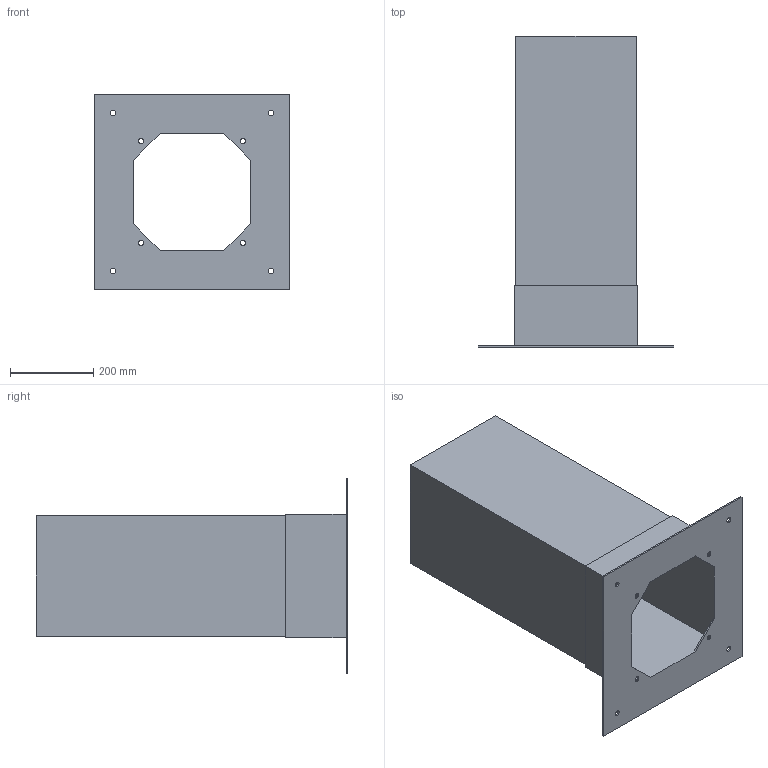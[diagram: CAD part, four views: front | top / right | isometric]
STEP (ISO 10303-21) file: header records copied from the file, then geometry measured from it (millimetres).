
FILE_DESCRIPTION(('STEP AP214'),'1');
FILE_NAME('accessory_5136861100.stp','2017-10-09T10:29:39',('TraceParts'),('TraceParts S.A.'),'Spatial InterOp 3D',' ',' ');
FILE_SCHEMA(('automotive_design'));
Length unit declared in the file: millimetre
Products named in the file (1): accessory_5136861100
Bounding box: 470 x 750 x 470 mm (x, y, z)
Volume: 4726176.9 mm3; surface area: 2037151.7 mm2
Topology: 1 solids, 1 shells, 60 faces, 168 edges, 112 vertices
Faces by surface type: plane 36, cylinder 24
Entity records: 2488 total; most frequent: CARTESIAN_POINT 341, DIRECTION 338, ORIENTED_EDGE 336, EDGE_CURVE 168, LINE 120, VECTOR 120, VERTEX_POINT 112, AXIS2_PLACEMENT_3D 109
